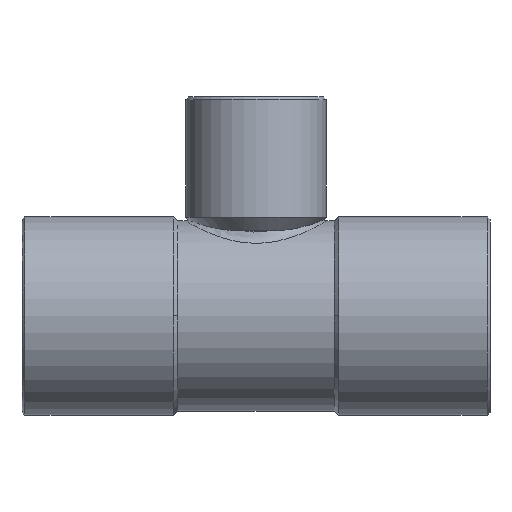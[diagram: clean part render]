
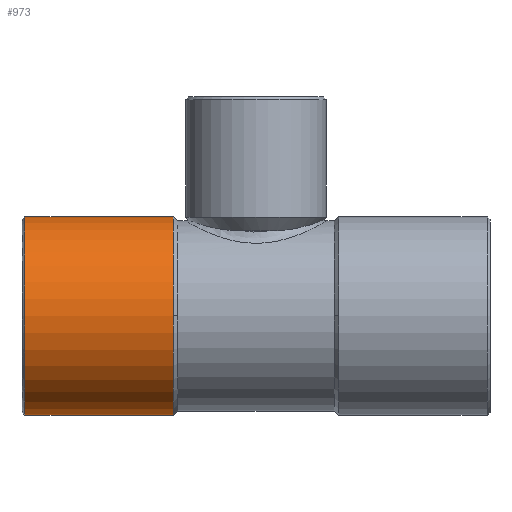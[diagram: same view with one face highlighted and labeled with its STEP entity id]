
A CAD part, top view. The second image highlights one B-rep face of the part: STEP entity #973.
In plain terms, the highlighted cylindrical face has radius 6.8 mm (diameter 13.6 mm), a partial arc.
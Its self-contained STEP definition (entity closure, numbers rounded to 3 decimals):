
#216=CARTESIAN_POINT('',(-5.65,0.,6.8));
#217=VERTEX_POINT('',#216);
#224=CARTESIAN_POINT('',(-5.65,-6.8,0.));
#225=VERTEX_POINT('',#224);
#226=CARTESIAN_POINT('',(-5.65,0.0,0.0));
#227=DIRECTION('',(1.0,0.0,0.0));
#228=DIRECTION('',(0.0,1.0,0.0));
#229=AXIS2_PLACEMENT_3D('',#226,#227,#228);
#230=CIRCLE('',#229,6.8);
#231=EDGE_CURVE('',#217,#225,#230,.T.);
#933=CARTESIAN_POINT('',(-10.825,0.0,0.0));
#934=DIRECTION('',(1.0,0.0,0.0));
#935=DIRECTION('',(0.0,1.0,0.0));
#936=AXIS2_PLACEMENT_3D('',#933,#934,#935);
#937=CYLINDRICAL_SURFACE('',#936,6.8);
#938=CARTESIAN_POINT('',(-15.8,6.8,0.));
#939=VERTEX_POINT('',#938);
#940=CARTESIAN_POINT('',(-5.65,6.8,0.0));
#941=VERTEX_POINT('',#940);
#942=CARTESIAN_POINT('',(-15.8,6.8,0.));
#943=DIRECTION('',(1.0,0.0,0.0));
#944=VECTOR('',#943,10.15);
#945=LINE('',#942,#944);
#946=EDGE_CURVE('',#939,#941,#945,.T.);
#947=ORIENTED_EDGE('',*,*,#946,.F.);
#948=CARTESIAN_POINT('',(-15.8,-6.8,0.));
#949=VERTEX_POINT('',#948);
#950=CARTESIAN_POINT('',(-15.8,0.0,0.0));
#951=DIRECTION('',(-1.0,0.0,0.0));
#952=DIRECTION('',(0.0,-1.0,0.0));
#953=AXIS2_PLACEMENT_3D('',#950,#951,#952);
#954=CIRCLE('',#953,6.8);
#955=EDGE_CURVE('',#949,#939,#954,.T.);
#956=ORIENTED_EDGE('',*,*,#955,.F.);
#957=CARTESIAN_POINT('',(-5.65,-6.8,0.));
#958=DIRECTION('',(-1.0,0.0,0.0));
#959=VECTOR('',#958,10.15);
#960=LINE('',#957,#959);
#961=EDGE_CURVE('',#225,#949,#960,.T.);
#962=ORIENTED_EDGE('',*,*,#961,.F.);
#963=ORIENTED_EDGE('',*,*,#231,.F.);
#964=CARTESIAN_POINT('',(-5.65,0.0,0.0));
#965=DIRECTION('',(1.0,0.0,0.0));
#966=DIRECTION('',(0.0,1.0,0.0));
#967=AXIS2_PLACEMENT_3D('',#964,#965,#966);
#968=CIRCLE('',#967,6.8);
#969=EDGE_CURVE('',#941,#217,#968,.T.);
#970=ORIENTED_EDGE('',*,*,#969,.F.);
#971=EDGE_LOOP('',(#947,#956,#962,#963,#970));
#972=FACE_OUTER_BOUND('',#971,.T.);
#973=ADVANCED_FACE('',(#972),#937,.T.);
